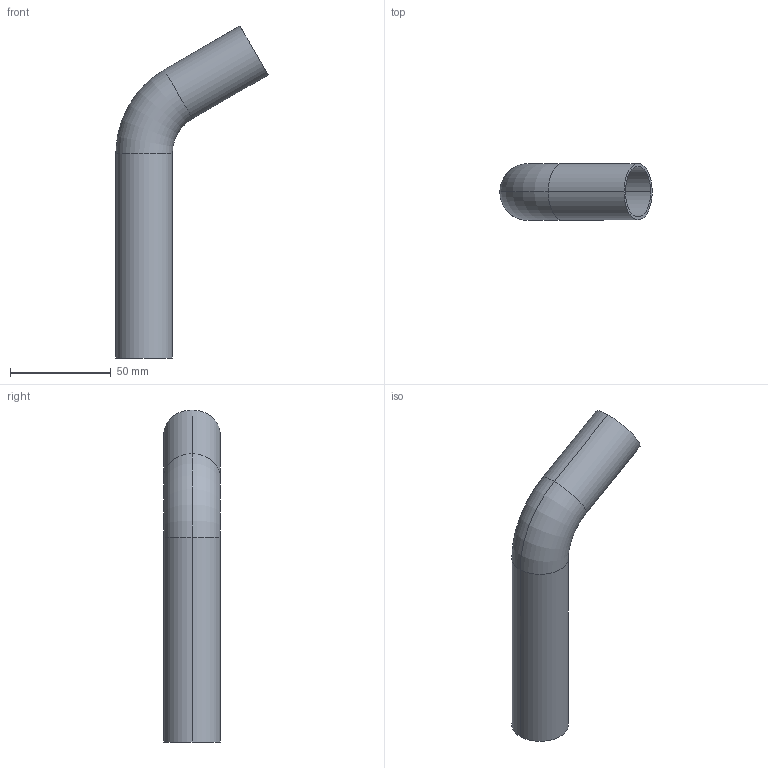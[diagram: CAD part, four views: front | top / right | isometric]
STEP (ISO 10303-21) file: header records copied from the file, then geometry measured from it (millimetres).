
FILE_DESCRIPTION(('OneSpaceDesigner STEP Export'),'2;1');
FILE_NAME('R2724 28x28.stp','2010-06-10T12:54:34',(''),(''),'OneSpace Designer STEP processor for AP214 (Solid Model)','OneSpace Modeling 15.00A 14-Mar-2007 (C) CoCreate Software GmbH','');
FILE_SCHEMA(('AUTOMOTIVE_DESIGN { 1 0 10303 214 1 1 1 1 }'));
Length unit declared in the file: millimetre
Products named in the file (2): R2724_28x28
Assembly tree (1 placements, depth 2):
  R2724_28x28
    R2724_28x28
Bounding box: 75.56 x 28 x 164.62 mm (x, y, z)
Volume: 22521.2 mm3; surface area: 30278 mm2
Topology: 1 solids, 1 shells, 14 faces, 30 edges, 18 vertices
Faces by surface type: cylinder 8, torus 4, plane 2
Entity records: 367 total; most frequent: ORIENTED_EDGE 60, DIRECTION 56, CARTESIAN_POINT 50, EDGE_CURVE 30, AXIS2_PLACEMENT_3D 24, VERTEX_POINT 18, EDGE_LOOP 16, CIRCLE 14
